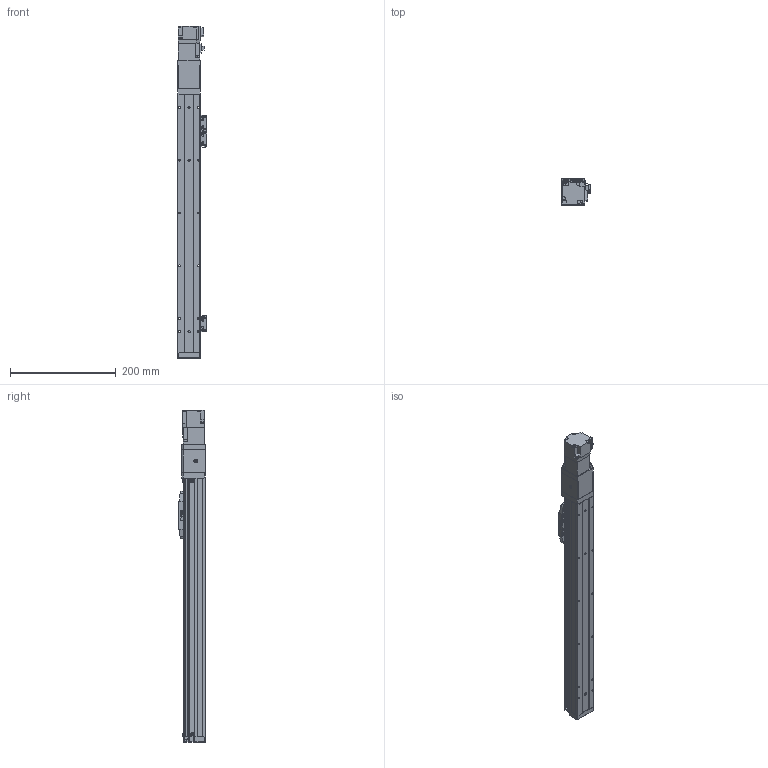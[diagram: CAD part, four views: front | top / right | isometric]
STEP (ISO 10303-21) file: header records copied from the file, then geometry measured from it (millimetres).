
FILE_DESCRIPTION (( 'STEP AP203' ), '1' );
FILE_NAME ('BTH40-350-BC-M05-C4.step', '2021-12-16T00:11:43', ( '微软用户' ), ( '微软中国' ), 'SwSTEP 2.0', 'SolidWorks 2020', '' );
FILE_SCHEMA (( 'CONFIG_CONTROL_DESIGN' ));
Length unit declared in the file: millimetre
Products named in the file (19): BTH50-023; BTH40-013; BTH40-001-50_BTH40-001-350; BTH50-024; HG-KR13; BTH40-003; GBT 70.1-M3℅6; GBT 70.3-M3℅6; BTH40-006; GBT96.1-2002 3×0.8; BTH40-017; BTH-M3X5X6; BTH40-022; BTH40-005-1; GBT70.1-2000 M3×16; GBT 70.1-M2.5×6; BTH40-350-BC-M05-C4; BTH50-028; BTH40-004
Assembly tree (49 placements, depth 2):
  BTH40-350-BC-M05-C4
    BTH40-001-50_BTH40-001-350
    BTH40-003
    BTH40-006
    BTH-M3X5X6  x10
    GBT70.1-2000 M3×16  x4
    BTH50-028  x2
    BTH50-023  x3
    BTH50-024  x3
    GBT 70.1-M3℅6  x6
    GBT96.1-2002 3×0.8  x6
    BTH40-022
    GBT 70.1-M2.5×6  x2
    BTH40-004
    BTH40-013
    HG-KR13
    GBT 70.3-M3℅6  x4
    BTH40-017
    BTH40-005-1
Bounding box: 55.2 x 52 x 629.4 mm (x, y, z)
Volume: 991910.4 mm3; surface area: 196522.8 mm2
Topology: 51 solids, 51 shells, 1958 faces, 4609 edges, 2852 vertices
Faces by surface type: plane 1088, cylinder 461, cone 257, torus 132, bspline 16, sphere 4
Entity records: 37687 total; most frequent: CARTESIAN_POINT 6814, DIRECTION 5916, ORIENTED_EDGE 5680, EDGE_CURVE 2840, LINE 2010, VECTOR 2010, AXIS2_PLACEMENT_3D 1953, VERTEX_POINT 1783
